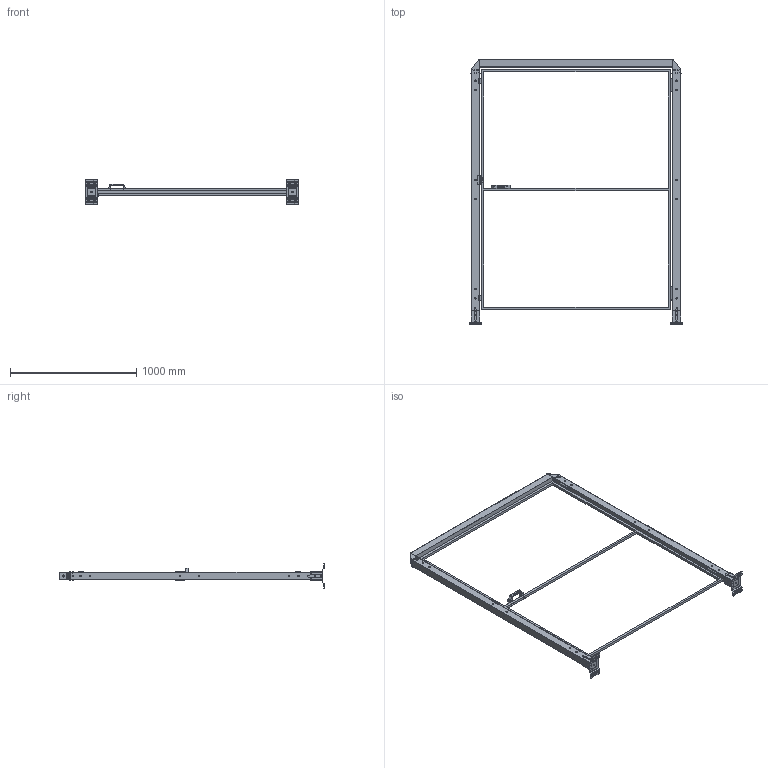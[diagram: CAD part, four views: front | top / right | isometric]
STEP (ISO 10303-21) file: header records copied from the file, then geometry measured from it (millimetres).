
FILE_DESCRIPTION(('STEP AP242'),'1');
FILE_NAME('vfda_bscncr2_15002020.stp','2025-01-23T13:57:31',('TraceParts'),('TraceParts S.A.'),'Spatial InterOp 3D',' ',' ');
FILE_SCHEMA(('AP242_MANAGED_MODEL_BASED_3D_ENGINEERING_MIM_LF {1 0 10303 442 1 1 4}'));
Length unit declared in the file: millimetre
Products named in the file (1): vfda_bscncr2_15002020_1
Bounding box: 1690 x 2101 x 192 mm (x, y, z)
Volume: 5787052.4 mm3; surface area: 3566460 mm2
Topology: 12 solids, 12 shells, 1942 faces, 5208 edges, 3340 vertices
Faces by surface type: plane 950, cylinder 652, bspline 236, cone 60, torus 40, sphere 4
Entity records: 78408 total; most frequent: CARTESIAN_POINT 14215, ORIENTED_EDGE 10408, DIRECTION 9578, EDGE_CURVE 5204, VERTEX_POINT 3340, LINE 3216, VECTOR 3216, AXIS2_PLACEMENT_3D 3181
